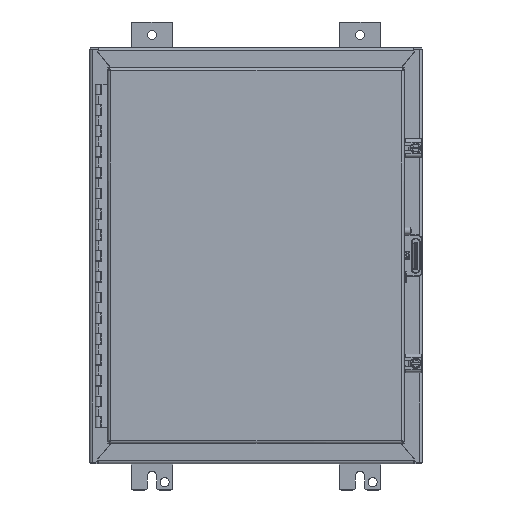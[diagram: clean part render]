
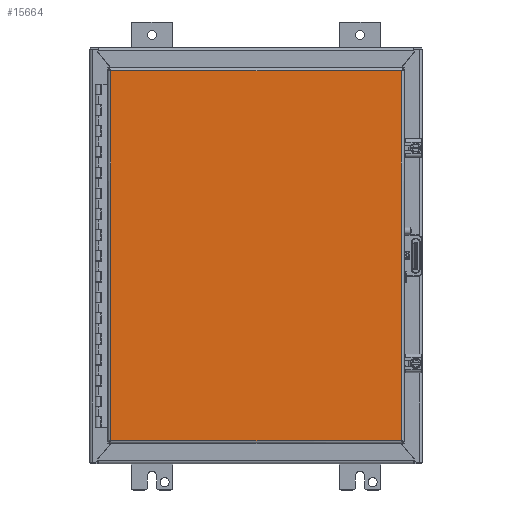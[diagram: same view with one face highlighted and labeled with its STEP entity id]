
A CAD part, top view. The second image highlights one B-rep face of the part: STEP entity #15664.
In plain terms, the highlighted planar face has unit normal (0, 0, 1) as drawn and (0, 1, 0) by its records, which use the part's own axes.
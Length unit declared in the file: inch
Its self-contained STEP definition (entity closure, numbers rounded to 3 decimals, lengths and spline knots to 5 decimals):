
#14149=DIRECTION('',(0.,0.,1.));
#14150=VECTOR('',#14149,13.96);
#14151=CARTESIAN_POINT('',(-8.88638,0.,0.145));
#14152=LINE('',#14151,#14150);
#14205=DIRECTION('',(0.,0.,1.));
#14206=VECTOR('',#14205,13.96);
#14207=CARTESIAN_POINT('',(8.88638,0.,0.145));
#14208=LINE('',#14207,#14206);
#14319=DIRECTION('',(-1.,0.,0.));
#14320=VECTOR('',#14319,17.77275);
#14321=CARTESIAN_POINT('',(8.88638,0.,0.145));
#14322=LINE('',#14321,#14320);
#14835=DIRECTION('',(-1.,0.,0.));
#14836=VECTOR('',#14835,17.77275);
#14837=CARTESIAN_POINT('',(8.88638,0.,14.105));
#14838=LINE('',#14837,#14836);
#15063=CARTESIAN_POINT('',(8.88638,0.,0.145));
#15064=CARTESIAN_POINT('',(-8.88638,0.,0.145));
#15065=VERTEX_POINT('',#15063);
#15066=VERTEX_POINT('',#15064);
#15067=CARTESIAN_POINT('',(8.88638,0.,14.105));
#15068=CARTESIAN_POINT('',(-8.88638,0.,14.105));
#15069=VERTEX_POINT('',#15067);
#15070=VERTEX_POINT('',#15068);
#15650=CARTESIAN_POINT('',(9.03138,0.,0.));
#15651=DIRECTION('',(0.,1.,0.));
#15652=DIRECTION('',(-1.,0.,0.));
#15653=AXIS2_PLACEMENT_3D('',#15650,#15651,#15652);
#15654=PLANE('',#15653);
#15656=ORIENTED_EDGE('',*,*,#15655,.T.);
#15658=ORIENTED_EDGE('',*,*,#15657,.T.);
#15659=ORIENTED_EDGE('',*,*,#15640,.F.);
#15661=ORIENTED_EDGE('',*,*,#15660,.F.);
#15662=EDGE_LOOP('',(#15656,#15658,#15659,#15661));
#15663=FACE_OUTER_BOUND('',#15662,.F.);
#15640=EDGE_CURVE('',#15066,#15070,#14152,.T.);
#15655=EDGE_CURVE('',#15065,#15069,#14208,.T.);
#15657=EDGE_CURVE('',#15069,#15070,#14838,.T.);
#15660=EDGE_CURVE('',#15065,#15066,#14322,.T.);
#15664=ADVANCED_FACE('',(#15663),#15654,.T.);
